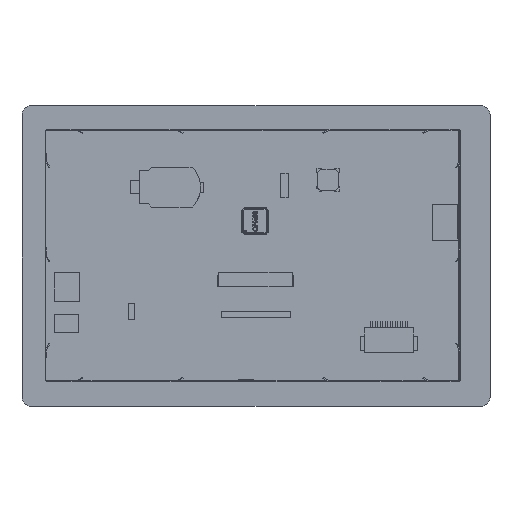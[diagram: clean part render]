
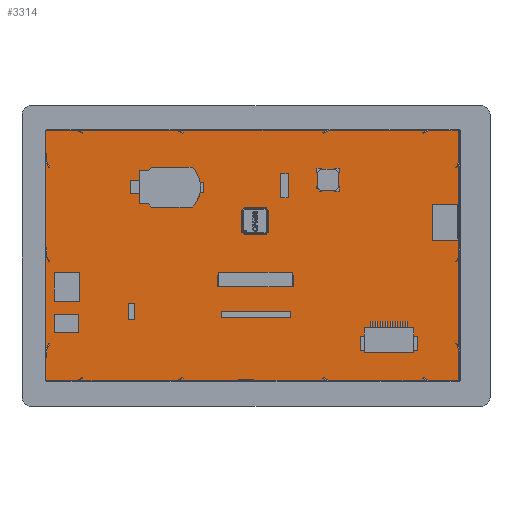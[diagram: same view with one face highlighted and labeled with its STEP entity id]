
A CAD part, top view. The second image highlights one B-rep face of the part: STEP entity #3314.
In plain terms, the highlighted planar face has unit normal (0, 0, 1).
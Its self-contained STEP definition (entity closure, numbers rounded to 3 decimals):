
#138=(
BOUNDED_CURVE()
B_SPLINE_CURVE(3,(#46437,#46438,#46439,#46440,#46441,#46442,#46443,#46444,
#46445,#46446,#46447,#46448,#46449,#46450,#46451,#46452,#46453,#46454,#46455,
#46456,#46457,#46458),.UNSPECIFIED.,.F.,.F.)
B_SPLINE_CURVE_WITH_KNOTS((4,3,3,3,3,3,3,4),(0.,0.292,0.294,
0.683,0.685,0.874,0.875,
1.),.UNSPECIFIED.)
CURVE()
GEOMETRIC_REPRESENTATION_ITEM()
RATIONAL_B_SPLINE_CURVE((1.,1.,1.,1.,0.805,0.805,
1.,1.,1.,1.,0.805,0.805,1.,1.,1.,1.,0.805,
0.805,1.,1.,1.,1.))
REPRESENTATION_ITEM('')
);
#141=(
BOUNDED_CURVE()
B_SPLINE_CURVE(3,(#46509,#46510,#46511,#46512),.UNSPECIFIED.,.F.,.F.)
B_SPLINE_CURVE_WITH_KNOTS((4,4),(0.,1.),.UNSPECIFIED.)
CURVE()
GEOMETRIC_REPRESENTATION_ITEM()
RATIONAL_B_SPLINE_CURVE((1.,1.,1.,1.))
REPRESENTATION_ITEM('')
);
#143=(
BOUNDED_CURVE()
B_SPLINE_CURVE(3,(#46521,#46522,#46523,#46524),.UNSPECIFIED.,.F.,.F.)
B_SPLINE_CURVE_WITH_KNOTS((4,4),(0.,1.),.UNSPECIFIED.)
CURVE()
GEOMETRIC_REPRESENTATION_ITEM()
RATIONAL_B_SPLINE_CURVE((1.,1.,1.,1.))
REPRESENTATION_ITEM('')
);
#145=(
BOUNDED_CURVE()
B_SPLINE_CURVE(3,(#46533,#46534,#46535,#46536),.UNSPECIFIED.,.F.,.F.)
B_SPLINE_CURVE_WITH_KNOTS((4,4),(0.,1.),.UNSPECIFIED.)
CURVE()
GEOMETRIC_REPRESENTATION_ITEM()
RATIONAL_B_SPLINE_CURVE((1.,1.,1.,1.))
REPRESENTATION_ITEM('')
);
#147=(
BOUNDED_CURVE()
B_SPLINE_CURVE(3,(#46545,#46546,#46547,#46548,#46549,#46550,#46551,#46552,
#46553,#46554,#46555),.UNSPECIFIED.,.F.,.F.)
B_SPLINE_CURVE_WITH_KNOTS((4,2,2,3,4),(0.,0.433,0.719,
0.991,1.),.UNSPECIFIED.)
CURVE()
GEOMETRIC_REPRESENTATION_ITEM()
RATIONAL_B_SPLINE_CURVE((1.,1.,1.,1.,1.,1.,1.,1.,0.805,0.805,
1.))
REPRESENTATION_ITEM('')
);
#182=B_SPLINE_CURVE_WITH_KNOTS('',3,(#46398,#46399,#46400,#46401),.UNSPECIFIED.,
 .F.,.F.,(4,4),(0.,1.),.UNSPECIFIED.);
#184=B_SPLINE_CURVE_WITH_KNOTS('',3,(#46413,#46414,#46415,#46416),.UNSPECIFIED.,
 .F.,.F.,(4,4),(0.,1.),.UNSPECIFIED.);
#186=B_SPLINE_CURVE_WITH_KNOTS('',3,(#46425,#46426,#46427,#46428),.UNSPECIFIED.,
 .F.,.F.,(4,4),(0.,1.),.UNSPECIFIED.);
#188=B_SPLINE_CURVE_WITH_KNOTS('',3,(#46578,#46579,#46580,#46581),.UNSPECIFIED.,
 .F.,.F.,(4,4),(0.,1.),.UNSPECIFIED.);
#221=FACE_BOUND('',#7340,.T.);
#222=FACE_BOUND('',#7341,.T.);
#3314=ADVANCED_FACE('',(#221,#222),#4524,.T.);
#4524=PLANE('',#30927);
#7340=EDGE_LOOP('',(#15313,#15314,#15315,#15316,#15317));
#7341=EDGE_LOOP('',(#15318,#15319,#15320,#15321));
#15313=ORIENTED_EDGE('',*,*,#21992,.F.);
#15314=ORIENTED_EDGE('',*,*,#22005,.F.);
#15315=ORIENTED_EDGE('',*,*,#22002,.F.);
#15316=ORIENTED_EDGE('',*,*,#21999,.F.);
#15317=ORIENTED_EDGE('',*,*,#21996,.F.);
#15318=ORIENTED_EDGE('',*,*,#21982,.T.);
#15319=ORIENTED_EDGE('',*,*,#22007,.T.);
#15320=ORIENTED_EDGE('',*,*,#21989,.T.);
#15321=ORIENTED_EDGE('',*,*,#21986,.T.);
#17991=VERTEX_POINT('',#46402);
#17992=VERTEX_POINT('',#46403);
#17995=VERTEX_POINT('',#46417);
#17997=VERTEX_POINT('',#46429);
#17999=VERTEX_POINT('',#46459);
#18000=VERTEX_POINT('',#46460);
#18003=VERTEX_POINT('',#46513);
#18005=VERTEX_POINT('',#46525);
#18007=VERTEX_POINT('',#46537);
#21982=EDGE_CURVE('',#17991,#17992,#182,.T.);
#21986=EDGE_CURVE('',#17995,#17991,#184,.T.);
#21989=EDGE_CURVE('',#17997,#17995,#186,.T.);
#21992=EDGE_CURVE('',#17999,#18000,#138,.T.);
#21996=EDGE_CURVE('',#18000,#18003,#141,.T.);
#21999=EDGE_CURVE('',#18003,#18005,#143,.T.);
#22002=EDGE_CURVE('',#18005,#18007,#145,.T.);
#22005=EDGE_CURVE('',#18007,#17999,#147,.T.);
#22007=EDGE_CURVE('',#17992,#17997,#188,.T.);
#30927=AXIS2_PLACEMENT_3D('',#46588,#37956,#37957);
#37956=DIRECTION('',(0.,0.,1.));
#37957=DIRECTION('',(1.,0.,0.));
#46398=CARTESIAN_POINT('',(505.744,-27.935,0.));
#46399=CARTESIAN_POINT('',(505.744,-27.102,0.));
#46400=CARTESIAN_POINT('',(505.744,-26.268,0.));
#46401=CARTESIAN_POINT('',(505.744,-25.435,0.));
#46402=CARTESIAN_POINT('',(505.744,-27.935,0.));
#46403=CARTESIAN_POINT('',(505.744,-25.435,0.));
#46413=CARTESIAN_POINT('',(533.684,-27.935,0.));
#46414=CARTESIAN_POINT('',(524.371,-27.935,0.));
#46415=CARTESIAN_POINT('',(515.057,-27.935,0.));
#46416=CARTESIAN_POINT('',(505.744,-27.935,0.));
#46417=CARTESIAN_POINT('',(533.684,-27.935,0.));
#46425=CARTESIAN_POINT('',(533.684,-25.435,0.));
#46426=CARTESIAN_POINT('',(533.684,-26.268,0.));
#46427=CARTESIAN_POINT('',(533.684,-27.102,0.));
#46428=CARTESIAN_POINT('',(533.684,-27.935,0.));
#46429=CARTESIAN_POINT('',(533.684,-25.435,0.));
#46437=CARTESIAN_POINT('',(435.634,-52.725,0.));
#46438=CARTESIAN_POINT('',(435.634,-19.725,0.));
#46439=CARTESIAN_POINT('',(435.634,13.275,0.));
#46440=CARTESIAN_POINT('',(435.634,46.275,0.));
#46441=CARTESIAN_POINT('',(435.634,46.568,0.));
#46442=CARTESIAN_POINT('',(435.841,46.775,0.));
#46443=CARTESIAN_POINT('',(436.134,46.775,0.));
#46444=CARTESIAN_POINT('',(490.767,46.775,0.));
#46445=CARTESIAN_POINT('',(545.401,46.775,0.));
#46446=CARTESIAN_POINT('',(600.034,46.775,0.));
#46447=CARTESIAN_POINT('',(600.327,46.775,0.));
#46448=CARTESIAN_POINT('',(600.534,46.568,0.));
#46449=CARTESIAN_POINT('',(600.534,46.275,0.));
#46450=CARTESIAN_POINT('',(600.534,13.275,0.));
#46451=CARTESIAN_POINT('',(600.534,-19.725,0.));
#46452=CARTESIAN_POINT('',(600.534,-52.725,0.));
#46453=CARTESIAN_POINT('',(600.534,-53.018,0.));
#46454=CARTESIAN_POINT('',(600.327,-53.225,0.));
#46455=CARTESIAN_POINT('',(600.034,-53.225,0.));
#46456=CARTESIAN_POINT('',(572.977,-53.225,0.));
#46457=CARTESIAN_POINT('',(545.921,-53.225,0.));
#46458=CARTESIAN_POINT('',(518.864,-53.225,0.));
#46459=CARTESIAN_POINT('',(435.634,-52.725,0.));
#46460=CARTESIAN_POINT('',(518.864,-53.225,0.));
#46509=CARTESIAN_POINT('',(518.864,-53.225,0.));
#46510=CARTESIAN_POINT('',(518.864,-53.065,0.));
#46511=CARTESIAN_POINT('',(518.864,-52.905,0.));
#46512=CARTESIAN_POINT('',(518.864,-52.745,0.));
#46513=CARTESIAN_POINT('',(518.864,-52.745,0.));
#46521=CARTESIAN_POINT('',(518.864,-52.745,0.));
#46522=CARTESIAN_POINT('',(516.851,-52.745,0.));
#46523=CARTESIAN_POINT('',(514.837,-52.745,0.));
#46524=CARTESIAN_POINT('',(512.824,-52.745,0.));
#46525=CARTESIAN_POINT('',(512.824,-52.745,0.));
#46533=CARTESIAN_POINT('',(512.824,-52.745,0.));
#46534=CARTESIAN_POINT('',(512.824,-52.905,0.));
#46535=CARTESIAN_POINT('',(512.824,-53.065,0.));
#46536=CARTESIAN_POINT('',(512.824,-53.225,0.));
#46537=CARTESIAN_POINT('',(512.824,-53.225,0.));
#46545=CARTESIAN_POINT('',(512.824,-53.225,0.));
#46546=CARTESIAN_POINT('',(501.651,-53.225,0.));
#46547=CARTESIAN_POINT('',(490.477,-53.225,0.));
#46548=CARTESIAN_POINT('',(471.927,-53.225,0.));
#46549=CARTESIAN_POINT('',(464.551,-53.225,0.));
#46550=CARTESIAN_POINT('',(450.161,-53.225,0.));
#46551=CARTESIAN_POINT('',(443.147,-53.225,0.));
#46552=CARTESIAN_POINT('',(436.134,-53.225,0.));
#46553=CARTESIAN_POINT('',(435.841,-53.225,0.));
#46554=CARTESIAN_POINT('',(435.634,-53.018,0.));
#46555=CARTESIAN_POINT('',(435.634,-52.725,0.));
#46578=CARTESIAN_POINT('',(505.744,-25.435,0.));
#46579=CARTESIAN_POINT('',(515.057,-25.435,0.));
#46580=CARTESIAN_POINT('',(524.371,-25.435,0.));
#46581=CARTESIAN_POINT('',(533.684,-25.435,0.));
#46588=CARTESIAN_POINT('',(522.889,46.775,0.));
